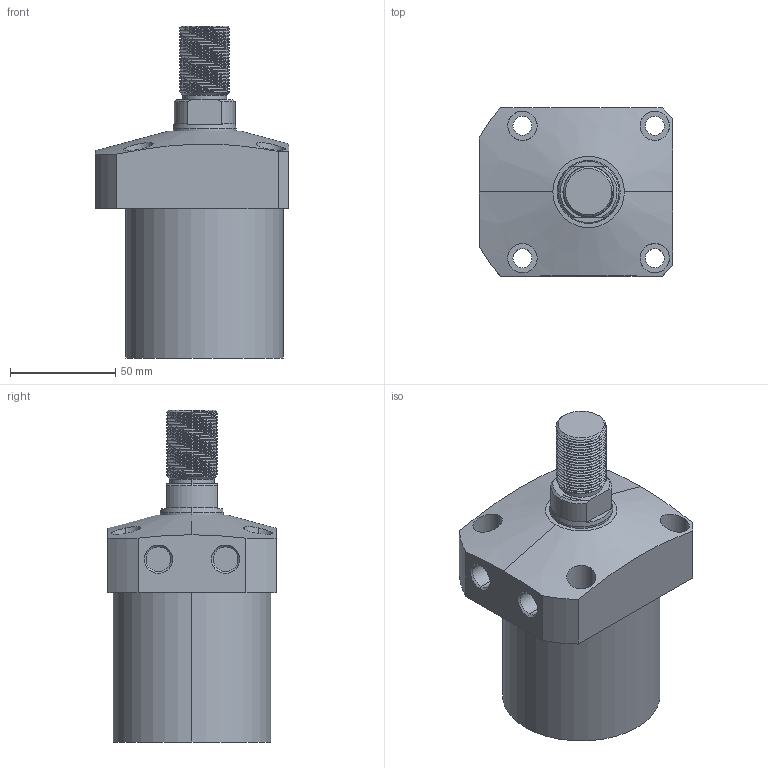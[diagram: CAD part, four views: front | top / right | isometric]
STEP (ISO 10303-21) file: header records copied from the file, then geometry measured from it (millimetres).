
FILE_DESCRIPTION (( 'STEP AP203' ), '1' );
FILE_NAME ('CLL-075CT-055.STEP', '2020-01-08T11:54:21', ( '' ), ( '' ), 'SwSTEP 2.0', 'SolidWorks 2015', '' );
FILE_SCHEMA (( 'CONFIG_CONTROL_DESIGN' ));
Length unit declared in the file: millimetre
Products named in the file (1): CLL-075CT-055
Bounding box: 92 x 80 x 158 mm (x, y, z)
Volume: 556885.8 mm3; surface area: 51046.2 mm2
Topology: 1 solids, 1 shells, 122 faces, 312 edges, 204 vertices
Faces by surface type: cylinder 77, plane 25, cone 16, bspline 4
Entity records: 7955 total; most frequent: CARTESIAN_POINT 5159, ORIENTED_EDGE 624, DIRECTION 511, EDGE_CURVE 312, VERTEX_POINT 204, AXIS2_PLACEMENT_3D 199, EDGE_LOOP 142, FACE_OUTER_BOUND 122
